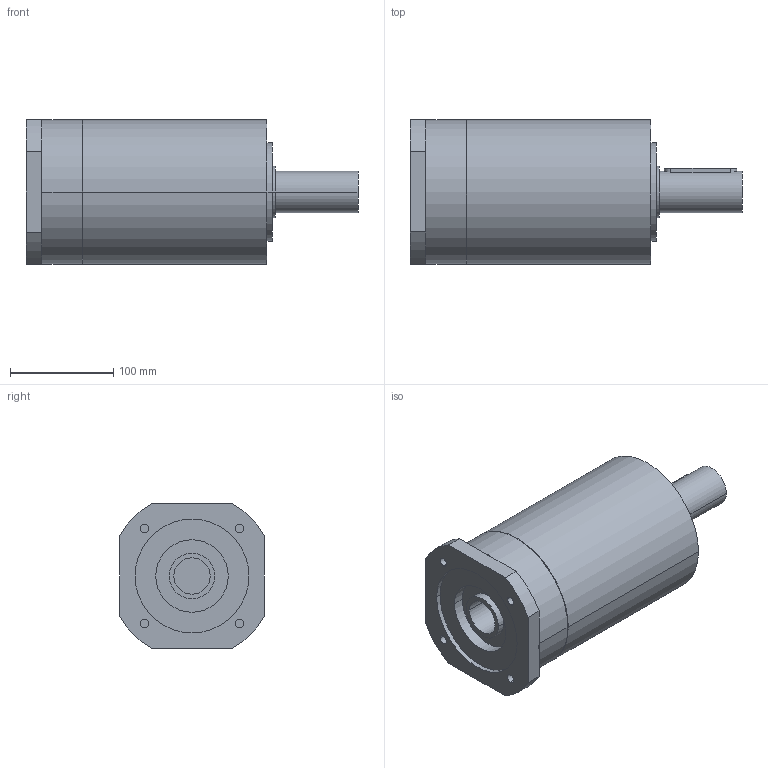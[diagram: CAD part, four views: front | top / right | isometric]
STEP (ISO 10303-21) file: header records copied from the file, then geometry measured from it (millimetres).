
FILE_DESCRIPTION(('CoCreate Modeling STEP Export'),'2;1');
FILE_NAME('GPR150_ig-9-12-16-20-28-35_40_B14_35_P04.stp','2014-08-19T17:04:14',(''),(''),'CoCreate Modeling STEP processor for AP214 (Solid Model)','CoCreate Modeling 16.00C 25-Feb-2009 (C) Parametric Technology GmbH','');
FILE_SCHEMA(('AUTOMOTIVE_DESIGN { 1 0 10303 214 1 1 1 1 }'));
Length unit declared in the file: millimetre
Products named in the file (2): GPR150_ig-9-12-16-20-28-35_40_B14_35_P04
Assembly tree (1 placements, depth 2):
  GPR150_ig-9-12-16-20-28-35_40_B14_35_P04
    GPR150_ig-9-12-16-20-28-35_40_B14_35_P04
Bounding box: 321 x 140 x 140 mm (x, y, z)
Volume: 3605051 mm3; surface area: 173349.8 mm2
Topology: 1 solids, 1 shells, 86 faces, 232 edges, 160 vertices
Faces by surface type: cylinder 50, plane 30, cone 6
Entity records: 2336 total; most frequent: ORIENTED_EDGE 460, CARTESIAN_POINT 441, DIRECTION 312, EDGE_CURVE 230, VERTEX_POINT 160, AXIS2_PLACEMENT_3D 119, EDGE_LOOP 108, FACE_OUTER_BOUND 86
